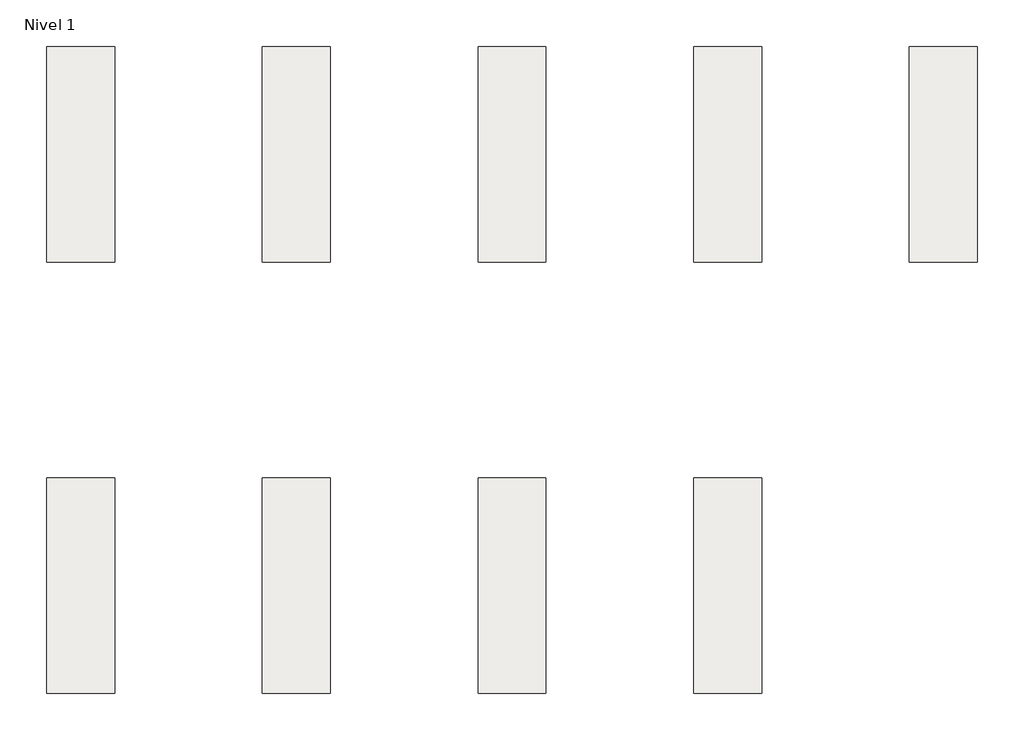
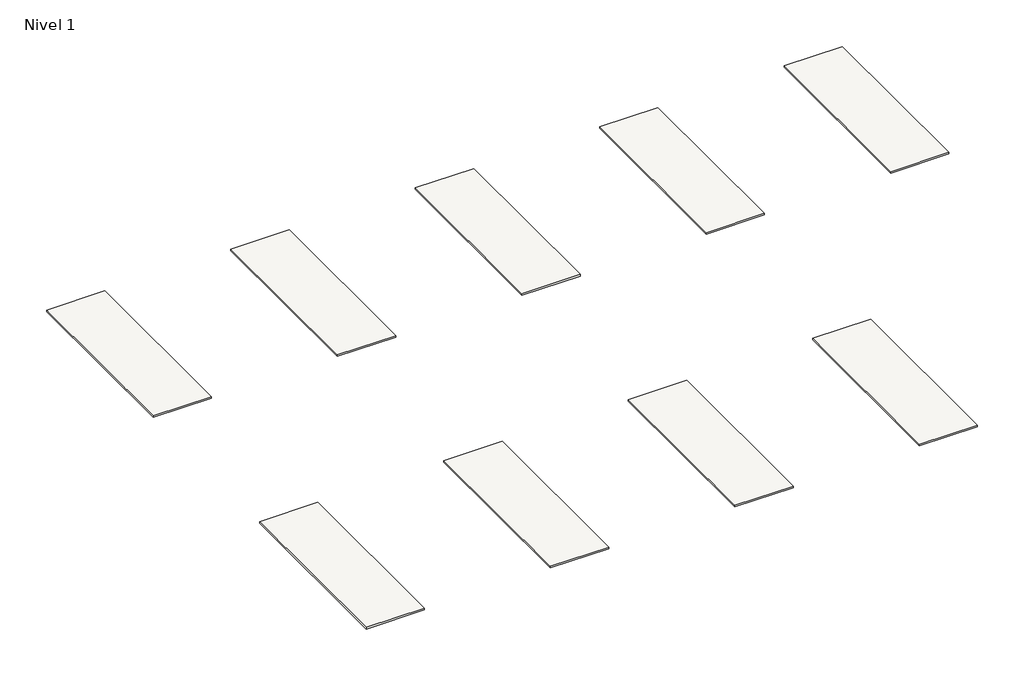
# One storey: 9 slabs.
"""IFC4 building model written with IfcOpenShell, lengths in millimetres."""

from ifc_helpers import new_model, si_unit, frame, origin, place, context, project, spatial, polyline, outline, extrude, element, save

model = new_model("IFC4")

# Units and contexts
model_context = context("Model", 3, world=origin())
ifc_project = project(units=[si_unit("LENGTHUNIT", "METRE", prefix="MILLI")], contexts=[model_context])

# Site, building, storey
site = spatial("IfcSite", under=ifc_project)
building = spatial("IfcBuilding", under=site)
storey = spatial("IfcBuildingStorey", under=building, Name="Nivel 1", Elevation=0.0)

# Slabs
placement = place(None, origin())
element("IfcSlab", 1, ObjectType="Oxford Nieve Rec.", at=placement, inside=storey, context=model_context, shape_type="SweptSolid", body=[
    extrude(outline(polyline([(0.0, 1000.0), (315.0, 1000.0), (315.0, 0.0), (0.0, 0.0), (0.0, 1000.0)])), frame((0.0, 0.0, -8.7), z_axis=(0.0, 0.0, 1.0), x_axis=(1.0, 0.0, 0.0)), (0.0, 0.0, 1.0), 8.7),
])
element("IfcSlab", 2, ObjectType="Abbey Nieve Rec.", at=placement, inside=storey, context=model_context, shape_type="SweptSolid", body=[
    extrude(outline(polyline([(1000.0, 1000.0), (1315.0, 1000.0), (1315.0, 0.0), (1000.0, 0.0), (1000.0, 1000.0)])), frame((0.0, 0.0, -8.7), z_axis=(0.0, 0.0, 1.0), x_axis=(1.0, 0.0, 0.0)), (0.0, 0.0, 1.0), 8.7),
])
element("IfcSlab", 3, ObjectType="Camden Nieve Rec.", at=placement, inside=storey, context=model_context, shape_type="SweptSolid", body=[
    extrude(outline(polyline([(2000.0, 1000.0), (2315.0, 1000.0), (2315.0, 0.0), (2000.0, 0.0), (2000.0, 1000.0)])), frame((0.0, 0.0, -8.7), z_axis=(0.0, 0.0, 1.0), x_axis=(1.0, 0.0, 0.0)), (0.0, 0.0, 1.0), 8.7),
])
element("IfcSlab", 4, ObjectType="Oxford Ebano Rec.", at=placement, inside=storey, context=model_context, shape_type="SweptSolid", body=[
    extrude(outline(polyline([(3000.0, 1000.0), (3315.0, 1000.0), (3315.0, 0.0), (3000.0, 0.0), (3000.0, 1000.0)])), frame((0.0, 0.0, -8.7), z_axis=(0.0, 0.0, 1.0), x_axis=(1.0, 0.0, 0.0)), (0.0, 0.0, 1.0), 8.7),
])
element("IfcSlab", 5, ObjectType="Oxford Taupe Rec.", at=placement, inside=storey, context=model_context, shape_type="SweptSolid", body=[
    extrude(outline(polyline([(4000.0, 1000.0), (4315.0, 1000.0), (4315.0, 0.0), (4000.0, 0.0), (4000.0, 1000.0)])), frame((0.0, 0.0, -8.7), z_axis=(0.0, 0.0, 1.0), x_axis=(1.0, 0.0, 0.0)), (0.0, 0.0, 1.0), 8.7),
])
element("IfcSlab", 6, ObjectType="Oxford Marfil Rec.", at=placement, inside=storey, context=model_context, shape_type="SweptSolid", body=[
    extrude(outline(polyline([(0.0, -1000.0), (315.0, -1000.0), (315.0, -2000.0), (0.0, -2000.0), (0.0, -1000.0)])), frame((0.0, 0.0, -8.7), z_axis=(0.0, 0.0, 1.0), x_axis=(1.0, 0.0, 0.0)), (0.0, 0.0, 1.0), 8.7),
])
element("IfcSlab", 7, ObjectType="Abbey Marfil Rec.", at=placement, inside=storey, context=model_context, shape_type="SweptSolid", body=[
    extrude(outline(polyline([(1000.0, -1000.0), (1315.0, -1000.0), (1315.0, -2000.0), (1000.0, -2000.0), (1000.0, -1000.0)])), frame((0.0, 0.0, -8.7), z_axis=(0.0, 0.0, 1.0), x_axis=(1.0, 0.0, 0.0)), (0.0, 0.0, 1.0), 8.7),
])
element("IfcSlab", 8, ObjectType="Camden Marfil Rec.", at=placement, inside=storey, context=model_context, shape_type="SweptSolid", body=[
    extrude(outline(polyline([(2000.0, -1000.0), (2315.0, -1000.0), (2315.0, -2000.0), (2000.0, -2000.0), (2000.0, -1000.0)])), frame((0.0, 0.0, -8.7), z_axis=(0.0, 0.0, 1.0), x_axis=(1.0, 0.0, 0.0)), (0.0, 0.0, 1.0), 8.7),
])
element("IfcSlab", 9, ObjectType="Oxford Indigo Rec.", at=placement, inside=storey, context=model_context, shape_type="SweptSolid", body=[
    extrude(outline(polyline([(3000.0, -1000.0), (3315.0, -1000.0), (3315.0, -2000.0), (3000.0, -2000.0), (3000.0, -1000.0)])), frame((0.0, 0.0, -8.7), z_axis=(0.0, 0.0, 1.0), x_axis=(1.0, 0.0, 0.0)), (0.0, 0.0, 1.0), 8.7),
])

save(model, "model.ifc")
